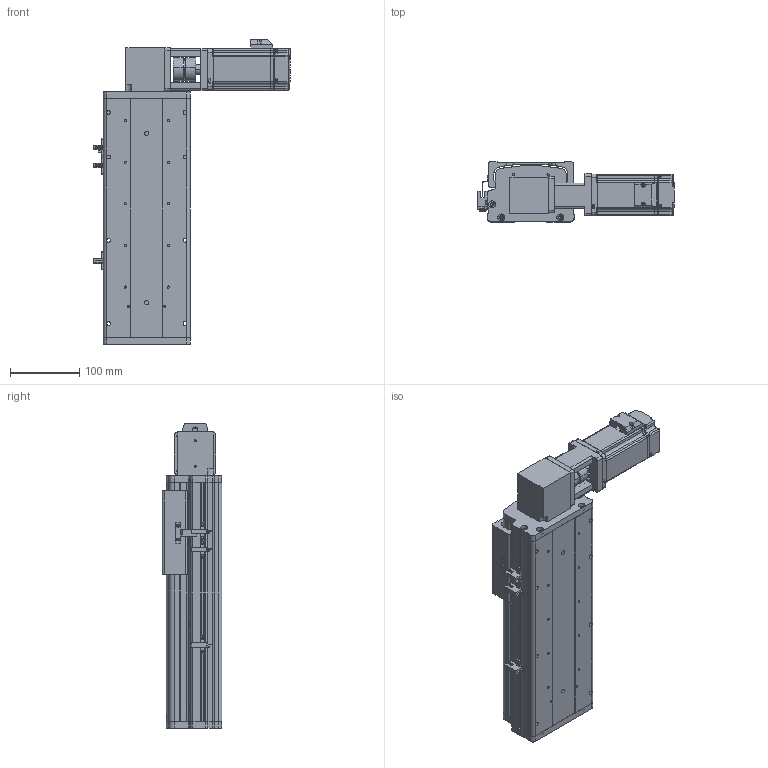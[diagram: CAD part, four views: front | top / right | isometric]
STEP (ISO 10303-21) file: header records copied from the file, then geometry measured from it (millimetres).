
FILE_DESCRIPTION (( 'STEP AP214' ), '1' );
FILE_NAME ('KSD125B-S150-MRT-CM.STEP', '2017-10-21T06:41:01', ( '微软用户' ), ( '微软中国' ), 'SwSTEP 2.0', 'SolidWorks 2014', '' );
FILE_SCHEMA (( 'AUTOMOTIVE_DESIGN' ));
Length unit declared in the file: millimetre
Products named in the file (16): 100宽马达安装板同步带左; KSD125模组150行程同步带-防尘盖; 125模组150行程同步带-底板; MHMD042G1CA_2_03; KSD125模组同步带-防撞垫2; CS-34X32-10X14; 100遵鎮湛假蚾啣1 ; 覜茼え68遵圉猾敕; U倰嫖萇假蚾璃; U倰嫖萇EEㄜSX672; KSD125模组同步带-防撞垫1; 100宽安装板同步带带电机座400W,86; 前端板-125宽模组同步带; 125模组同步带-尾端板1; KSD125模组同步带-滑动座1; KSD125B-S150-MRT-CM
Assembly tree (19 placements, depth 2):
  KSD125B-S150-MRT-CM
    KSD125模组同步带-滑动座1
    125模组同步带-尾端板1
    前端板-125宽模组同步带
    100宽安装板同步带带电机座400W,86
    KSD125模组同步带-防撞垫1
    U倰嫖萇EEㄜSX672  x3
    U倰嫖萇假蚾璃  x3
    覜茼え68遵圉猾敕
    100遵鎮湛假蚾啣1 
    CS-34X32-10X14
    KSD125模组同步带-防撞垫2
    MHMD042G1CA_2_03
    125模组150行程同步带-底板
    KSD125模组150行程同步带-防尘盖
    100宽马达安装板同步带左
Bounding box: 282.7 x 86 x 439 mm (x, y, z)
Volume: 1638968.6 mm3; surface area: 573707.5 mm2
Topology: 18 solids, 21 shells, 1598 faces, 4570 edges, 3012 vertices
Faces by surface type: cylinder 801, plane 694, cone 81, bspline 22
Entity records: 55542 total; most frequent: CARTESIAN_POINT 11324, DIRECTION 8109, ORIENTED_EDGE 7660, EDGE_CURVE 3908, AXIS2_PLACEMENT_3D 2985, VERTEX_POINT 2604, LINE 2139, VECTOR 2139
